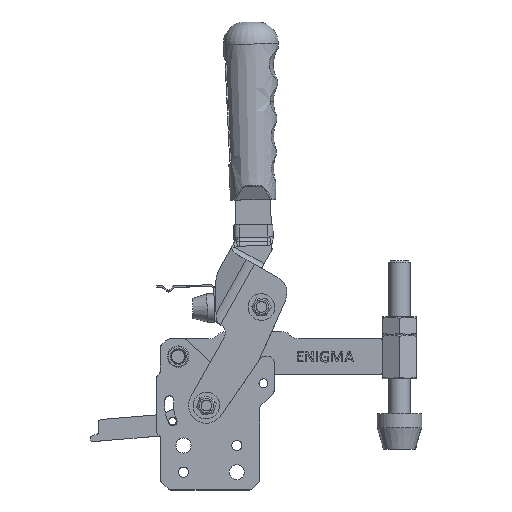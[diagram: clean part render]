
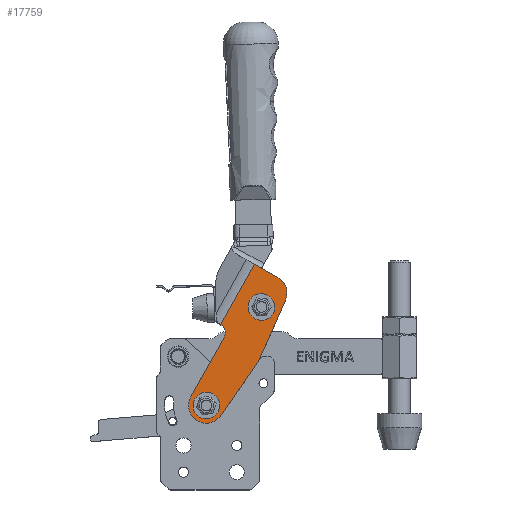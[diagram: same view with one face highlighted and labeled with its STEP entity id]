
A CAD part, top view. The second image highlights one B-rep face of the part: STEP entity #17759.
In plain terms, the highlighted planar face has unit normal (0, 0, 1) as drawn and (0, 0, -1) by its records, which use the part's own axes.
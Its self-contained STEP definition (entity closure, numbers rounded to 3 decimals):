
#6 = LINE ( 'NONE', #19817, #411 ) ;
#96 = EDGE_CURVE ( 'NONE', #9013, #15891, #27472, .T. ) ;
#262 = CARTESIAN_POINT ( 'NONE',  ( 15.179, 43.5, -17. ) ) ;
#411 = VECTOR ( 'NONE', #25338, 1000. ) ;
#945 = EDGE_CURVE ( 'NONE', #2407, #15891, #21454, .T. ) ;
#956 = CARTESIAN_POINT ( 'NONE',  ( 10., 0., -17. ) ) ;
#963 = EDGE_CURVE ( 'NONE', #13123, #2407, #36100, .T. ) ;
#2311 = LINE ( 'NONE', #26302, #35028 ) ;
#2407 = VERTEX_POINT ( 'NONE', #956 ) ;
#2486 = DIRECTION ( 'NONE',  ( 0., -1., 0. ) ) ;
#3251 = EDGE_CURVE ( 'NONE', #22923, #18989, #19197, .T. ) ;
#3278 = DIRECTION ( 'NONE',  ( 1., 0., 0. ) ) ;
#3502 = FACE_OUTER_BOUND ( 'NONE', #4376, .T. ) ;
#4376 = EDGE_LOOP ( 'NONE', ( #31715, #5904, #31045, #35350, #37431, #35159, #18484, #26773, #7592, #18500 ) ) ;
#4698 = EDGE_CURVE ( 'NONE', #25553, #22719, #2311, .T. ) ;
#5904 = ORIENTED_EDGE ( 'NONE', *, *, #34056, .F. ) ;
#5966 = VERTEX_POINT ( 'NONE', #34470 ) ;
#6102 = EDGE_CURVE ( 'NONE', #19722, #5966, #6, .T. ) ;
#6641 = LINE ( 'NONE', #18279, #17135 ) ;
#6794 = CARTESIAN_POINT ( 'NONE',  ( 10., 38.5, -17. ) ) ;
#7592 = ORIENTED_EDGE ( 'NONE', *, *, #96, .T. ) ;
#7651 = CARTESIAN_POINT ( 'NONE',  ( 0., 63.5, -17. ) ) ;
#9013 = VERTEX_POINT ( 'NONE', #24915 ) ;
#9438 = DIRECTION ( 'NONE',  ( 0., 1., 0. ) ) ;
#10182 = DIRECTION ( 'NONE',  ( 0., 0., 1. ) ) ;
#10580 = ORIENTED_EDGE ( 'NONE', *, *, #27491, .T. ) ;
#10683 = AXIS2_PLACEMENT_3D ( 'NONE', #32236, #29380, #3278 ) ;
#10909 = CARTESIAN_POINT ( 'NONE',  ( 0., 82.5, -17. ) ) ;
#11111 = AXIS2_PLACEMENT_3D ( 'NONE', #13630, #10182, #18980 ) ;
#11161 = EDGE_CURVE ( 'NONE', #5966, #16814, #21833, .T. ) ;
#12019 = CARTESIAN_POINT ( 'NONE',  ( -9.955, 73.449, -17. ) ) ;
#12477 = FACE_BOUND ( 'NONE', #28031, .T. ) ;
#12860 = PLANE ( 'NONE',  #18767 ) ;
#13123 = VERTEX_POINT ( 'NONE', #26961 ) ;
#13630 = CARTESIAN_POINT ( 'NONE',  ( 15., 38.5, -17. ) ) ;
#14381 = DIRECTION ( 'NONE',  ( 0., 0., 1. ) ) ;
#14938 = AXIS2_PLACEMENT_3D ( 'NONE', #7651, #25571, #34318 ) ;
#15435 = VECTOR ( 'NONE', #9438, 1000. ) ;
#15643 = DIRECTION ( 'NONE',  ( 1., 0., 0. ) ) ;
#15724 = DIRECTION ( 'NONE',  ( 1., 0., 0. ) ) ;
#15891 = VERTEX_POINT ( 'NONE', #6794 ) ;
#16265 = CARTESIAN_POINT ( 'NONE',  ( -7.5, 0., -17. ) ) ;
#16814 = VERTEX_POINT ( 'NONE', #28330 ) ;
#16829 = AXIS2_PLACEMENT_3D ( 'NONE', #24615, #30875, #27828 ) ;
#16889 = VECTOR ( 'NONE', #2486, 1000. ) ;
#17135 = VECTOR ( 'NONE', #30045, 1000. ) ;
#17585 = CARTESIAN_POINT ( 'NONE',  ( 15.179, 82.5, -17. ) ) ;
#17644 = VERTEX_POINT ( 'NONE', #28649 ) ;
#17759 = ADVANCED_FACE ( 'NONE', ( #12477, #3502, #18381 ), #12860, .F. ) ;
#18279 = CARTESIAN_POINT ( 'NONE',  ( -13.138, 32.455, -17. ) ) ;
#18381 = FACE_BOUND ( 'NONE', #22075, .T. ) ;
#18484 = ORIENTED_EDGE ( 'NONE', *, *, #36351, .T. ) ;
#18500 = ORIENTED_EDGE ( 'NONE', *, *, #945, .F. ) ;
#18564 = CARTESIAN_POINT ( 'NONE',  ( 0., 0., -17. ) ) ;
#18565 = EDGE_CURVE ( 'NONE', #18989, #22923, #25468, .T. ) ;
#18767 = AXIS2_PLACEMENT_3D ( 'NONE', #18564, #35132, #15724 ) ;
#18980 = DIRECTION ( 'NONE',  ( 1., 0., 0. ) ) ;
#18989 = VERTEX_POINT ( 'NONE', #20210 ) ;
#19159 = EDGE_CURVE ( 'NONE', #25553, #19722, #27287, .T. ) ;
#19197 = CIRCLE ( 'NONE', #14938, 7.5 ) ;
#19722 = VERTEX_POINT ( 'NONE', #12019 ) ;
#19817 = CARTESIAN_POINT ( 'NONE',  ( -9.955, 73.449, -17. ) ) ;
#20041 = ORIENTED_EDGE ( 'NONE', *, *, #18565, .T. ) ;
#20210 = CARTESIAN_POINT ( 'NONE',  ( -7.5, 63.5, -17. ) ) ;
#20603 = CARTESIAN_POINT ( 'NONE',  ( 26.681, 36.25, -17. ) ) ;
#20619 = AXIS2_PLACEMENT_3D ( 'NONE', #28615, #14381, #28435 ) ;
#21454 = LINE ( 'NONE', #23755, #15435 ) ;
#21833 = CIRCLE ( 'NONE', #26680, 40. ) ;
#22075 = EDGE_LOOP ( 'NONE', ( #10580, #28855 ) ) ;
#22431 = DIRECTION ( 'NONE',  ( 0., 0., 1. ) ) ;
#22719 = VERTEX_POINT ( 'NONE', #17585 ) ;
#22923 = VERTEX_POINT ( 'NONE', #31226 ) ;
#23755 = CARTESIAN_POINT ( 'NONE',  ( 10., 0., -17. ) ) ;
#24215 = CARTESIAN_POINT ( 'NONE',  ( 18., 43.5, -17. ) ) ;
#24615 = CARTESIAN_POINT ( 'NONE',  ( 0., 0., -17. ) ) ;
#24915 = CARTESIAN_POINT ( 'NONE',  ( 15., 43.5, -17. ) ) ;
#25136 = AXIS2_PLACEMENT_3D ( 'NONE', #30186, #29814, #27323 ) ;
#25318 = VERTEX_POINT ( 'NONE', #16265 ) ;
#25338 = DIRECTION ( 'NONE',  ( -0.095, -0.995, 0. ) ) ;
#25468 = CIRCLE ( 'NONE', #20619, 7.5 ) ;
#25494 = AXIS2_PLACEMENT_3D ( 'NONE', #30118, #35857, #29551 ) ;
#25553 = VERTEX_POINT ( 'NONE', #10909 ) ;
#25571 = DIRECTION ( 'NONE',  ( 0., 0., 1. ) ) ;
#26302 = CARTESIAN_POINT ( 'NONE',  ( 0., 82.5, -17. ) ) ;
#26680 = AXIS2_PLACEMENT_3D ( 'NONE', #20603, #22431, #15643 ) ;
#26773 = ORIENTED_EDGE ( 'NONE', *, *, #33709, .T. ) ;
#26961 = CARTESIAN_POINT ( 'NONE',  ( -9.955, -0.949, -17. ) ) ;
#27073 = CIRCLE ( 'NONE', #10683, 7.5 ) ;
#27178 = VERTEX_POINT ( 'NONE', #262 ) ;
#27228 = LINE ( 'NONE', #24215, #32899 ) ;
#27287 = CIRCLE ( 'NONE', #25494, 10. ) ;
#27323 = DIRECTION ( 'NONE',  ( 1., 0., 0. ) ) ;
#27472 = CIRCLE ( 'NONE', #11111, 5. ) ;
#27491 = EDGE_CURVE ( 'NONE', #25318, #17644, #27073, .T. ) ;
#27828 = DIRECTION ( 'NONE',  ( 1., 0., 0. ) ) ;
#28031 = EDGE_LOOP ( 'NONE', ( #20041, #30377 ) ) ;
#28330 = CARTESIAN_POINT ( 'NONE',  ( -13.138, 32.455, -17. ) ) ;
#28435 = DIRECTION ( 'NONE',  ( 1., 0., 0. ) ) ;
#28574 = CARTESIAN_POINT ( 'NONE',  ( 15.179, 0., -17. ) ) ;
#28615 = CARTESIAN_POINT ( 'NONE',  ( 0., 63.5, -17. ) ) ;
#28649 = CARTESIAN_POINT ( 'NONE',  ( 7.5, 0., -17. ) ) ;
#28855 = ORIENTED_EDGE ( 'NONE', *, *, #29688, .T. ) ;
#29380 = DIRECTION ( 'NONE',  ( 0., 0., 1. ) ) ;
#29551 = DIRECTION ( 'NONE',  ( 1., 0., 0. ) ) ;
#29554 = CIRCLE ( 'NONE', #16829, 7.5 ) ;
#29688 = EDGE_CURVE ( 'NONE', #17644, #25318, #29554, .T. ) ;
#29814 = DIRECTION ( 'NONE',  ( 0., 0., 1. ) ) ;
#30045 = DIRECTION ( 'NONE',  ( 0.095, -0.995, 0. ) ) ;
#30118 = CARTESIAN_POINT ( 'NONE',  ( 0., 72.5, -17. ) ) ;
#30186 = CARTESIAN_POINT ( 'NONE',  ( 0., 0., -17. ) ) ;
#30377 = ORIENTED_EDGE ( 'NONE', *, *, #3251, .T. ) ;
#30875 = DIRECTION ( 'NONE',  ( 0., 0., 1. ) ) ;
#31045 = ORIENTED_EDGE ( 'NONE', *, *, #11161, .F. ) ;
#31226 = CARTESIAN_POINT ( 'NONE',  ( 7.5, 63.5, -17. ) ) ;
#31715 = ORIENTED_EDGE ( 'NONE', *, *, #963, .F. ) ;
#32236 = CARTESIAN_POINT ( 'NONE',  ( 0., 0., -17. ) ) ;
#32899 = VECTOR ( 'NONE', #35832, 1000. ) ;
#33709 = EDGE_CURVE ( 'NONE', #27178, #9013, #27228, .T. ) ;
#34056 = EDGE_CURVE ( 'NONE', #16814, #13123, #6641, .T. ) ;
#34296 = LINE ( 'NONE', #28574, #16889 ) ;
#34318 = DIRECTION ( 'NONE',  ( 1., 0., 0. ) ) ;
#34470 = CARTESIAN_POINT ( 'NONE',  ( -13.138, 40.045, -17. ) ) ;
#34507 = DIRECTION ( 'NONE',  ( 1., 0., 0. ) ) ;
#35028 = VECTOR ( 'NONE', #34507, 1000. ) ;
#35132 = DIRECTION ( 'NONE',  ( 0., 0., 1. ) ) ;
#35159 = ORIENTED_EDGE ( 'NONE', *, *, #4698, .T. ) ;
#35350 = ORIENTED_EDGE ( 'NONE', *, *, #6102, .F. ) ;
#35832 = DIRECTION ( 'NONE',  ( -1., 0., 0. ) ) ;
#35857 = DIRECTION ( 'NONE',  ( 0., 0., 1. ) ) ;
#36100 = CIRCLE ( 'NONE', #25136, 10. ) ;
#36351 = EDGE_CURVE ( 'NONE', #22719, #27178, #34296, .T. ) ;
#37431 = ORIENTED_EDGE ( 'NONE', *, *, #19159, .F. ) ;
